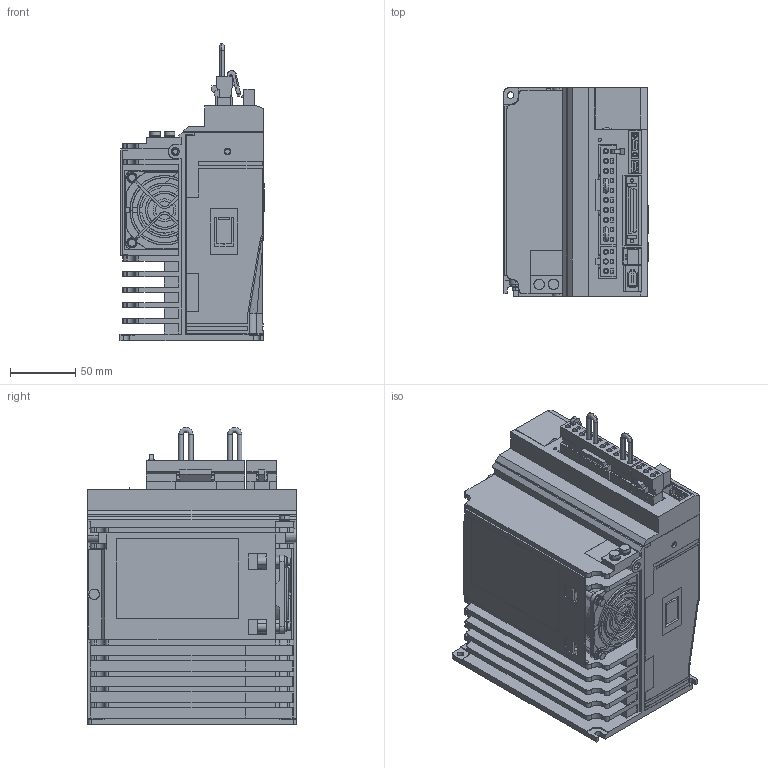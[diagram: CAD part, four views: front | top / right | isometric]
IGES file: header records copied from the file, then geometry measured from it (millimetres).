
Start section: SolidWorks IGES file using analytic representation for surfaces
Global section: file name: C:\YASKAWA\sgdv_1r9d0_a.IGS; native system: SolidWorks 2006 by SolidWorks Corporation; preprocessor: SolidWorks 2006 by SolidWorks Corporation; author: yamanouchi; date: 080617.172038; units: millimetre
Bounding box: 110.5 x 160 x 228 mm (x, y, z)
Surface area: 251294.5 mm2 (no closed solid volume)
Topology: 0 solids, 0 shells, 2047 faces, 18855 edges, 18853 vertices
Faces by surface type: bspline 1667, revolution 380
